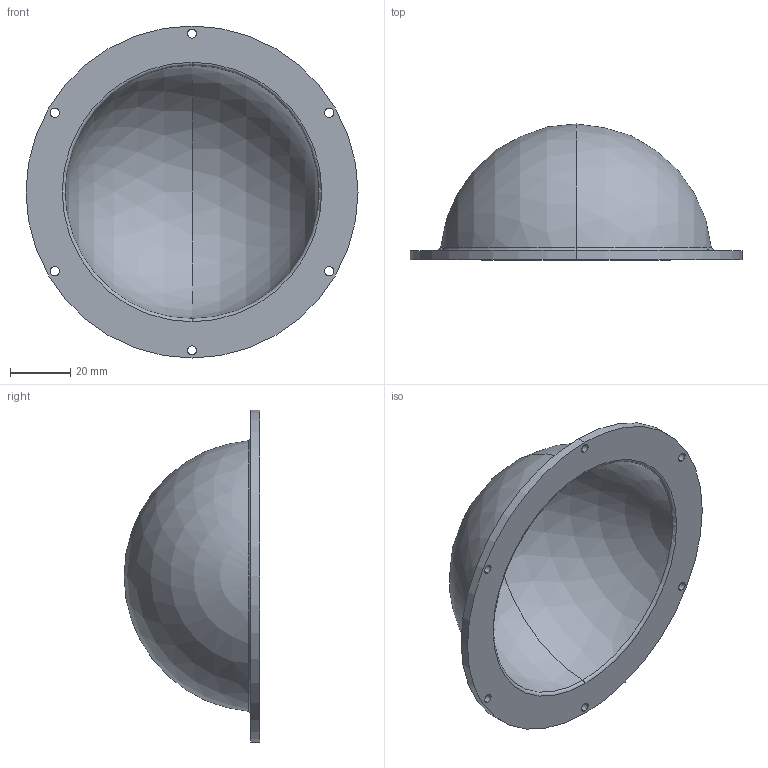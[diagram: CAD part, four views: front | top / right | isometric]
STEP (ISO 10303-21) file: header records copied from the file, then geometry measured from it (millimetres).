
FILE_DESCRIPTION (( 'STEP AP214' ), '1' );
FILE_NAME ('110球罩.STEP', '2023-06-09T08:27:12', ( '' ), ( '' ), 'SwSTEP 2.0', 'SolidWorks 2020', '' );
FILE_SCHEMA (( 'AUTOMOTIVE_DESIGN' ));
Length unit declared in the file: millimetre
Products named in the file (1): 110球罩
Bounding box: 110 x 45 x 110 mm (x, y, z)
Volume: 45067.6 mm3; surface area: 30994.1 mm2
Topology: 1 solids, 1 shells, 24 faces, 58 edges, 38 vertices
Faces by surface type: cylinder 14, torus 4, sphere 4, plane 2
Entity records: 788 total; most frequent: DIRECTION 152, CARTESIAN_POINT 121, ORIENTED_EDGE 116, AXIS2_PLACEMENT_3D 69, EDGE_CURVE 58, CIRCLE 44, EDGE_LOOP 38, VERTEX_POINT 38
